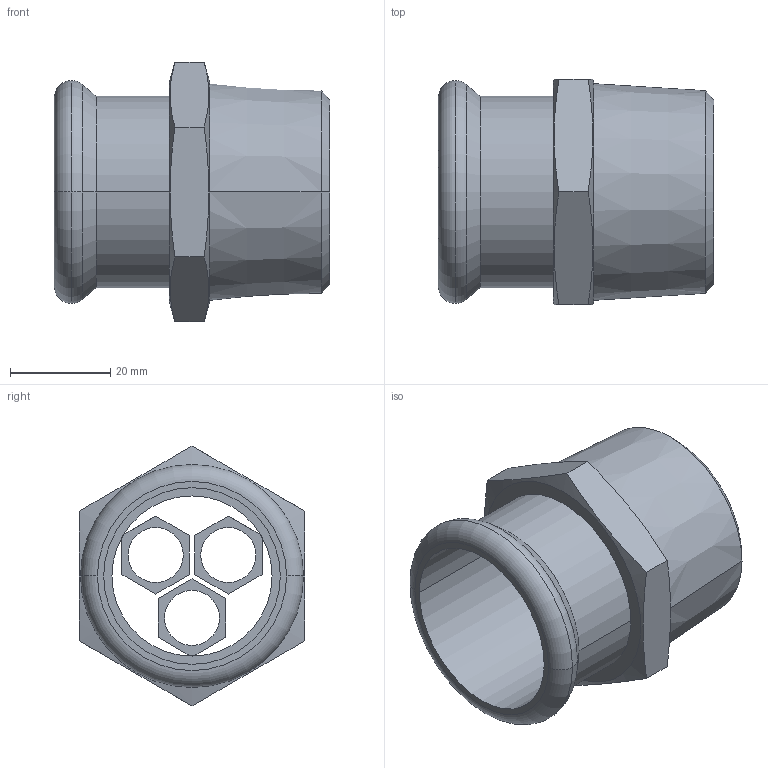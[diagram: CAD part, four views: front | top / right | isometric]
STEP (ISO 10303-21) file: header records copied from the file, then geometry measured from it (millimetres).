
FILE_DESCRIPTION(('OneSpaceDesigner STEP Export'),'2;1');
FILE_NAME('R2705 35xR1 1-4.stp','2010-06-09T11:01:37',(''),(''),'OneSpace Designer STEP processor for AP214 (Solid Model)','OneSpace Modeling 15.00A 14-Mar-2007 (C) CoCreate Software GmbH','');
FILE_SCHEMA(('AUTOMOTIVE_DESIGN { 1 0 10303 214 1 1 1 1 }'));
Length unit declared in the file: millimetre
Products named in the file (2): R2705_35xR1_1-4
Assembly tree (1 placements, depth 2):
  R2705_35xR1_1-4
    R2705_35xR1_1-4
Bounding box: 55 x 45 x 51.96 mm (x, y, z)
Volume: 25786 mm3; surface area: 15946.4 mm2
Topology: 1 solids, 1 shells, 70 faces, 175 edges, 114 vertices
Faces by surface type: plane 39, cylinder 17, cone 10, torus 4
Entity records: 2729 total; most frequent: CARTESIAN_POINT 1146, ORIENTED_EDGE 350, DIRECTION 265, EDGE_CURVE 175, VERTEX_POINT 114, VECTOR 99, LINE 99, EDGE_LOOP 85
